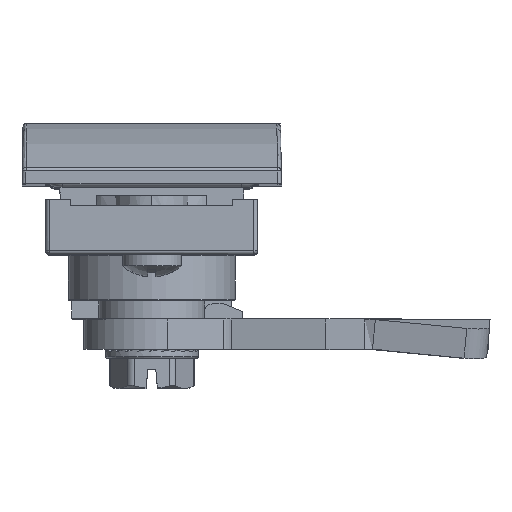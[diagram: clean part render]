
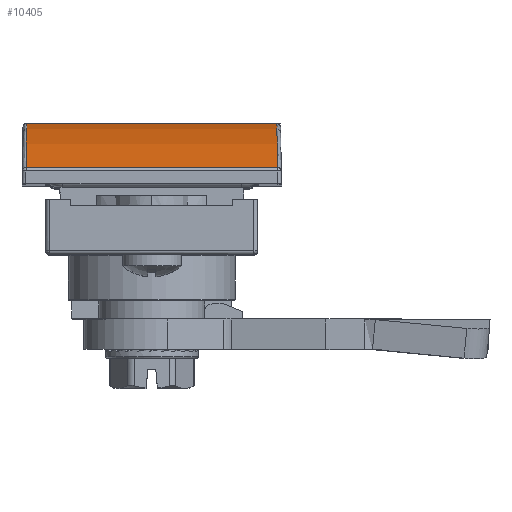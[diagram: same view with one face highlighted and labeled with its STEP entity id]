
A CAD part, top view. The second image highlights one B-rep face of the part: STEP entity #10405.
In plain terms, the highlighted cylindrical face has radius 65.001 mm (diameter 130.002 mm), a partial arc.
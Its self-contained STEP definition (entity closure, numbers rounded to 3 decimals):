
#2151 = ORIENTED_EDGE ( 'NONE', *, *, #16635, .T. ) ;
#2916 = VERTEX_POINT ( 'NONE', #7950 ) ;
#3477 =( BOUNDED_CURVE ( )  B_SPLINE_CURVE ( 3, ( #7183, #7042, #6995, #6992 ),
 .UNSPECIFIED., .F., .F. ) 
 B_SPLINE_CURVE_WITH_KNOTS ( ( 4, 4 ),
 ( 0.02, 0.428 ),
 .UNSPECIFIED. ) 
 CURVE ( )  GEOMETRIC_REPRESENTATION_ITEM ( )  RATIONAL_B_SPLINE_CURVE ( ( 1., 0.986, 0.986, 1. ) ) 
 REPRESENTATION_ITEM ( '' )  );
#3693 = VERTEX_POINT ( 'NONE', #7354 ) ;
#4225 = VECTOR ( 'NONE', #16352, 1000. ) ;
#4758 =( BOUNDED_CURVE ( )  B_SPLINE_CURVE ( 3, ( #16424, #16440, #16345, #16301 ),
 .UNSPECIFIED., .F., .F. ) 
 B_SPLINE_CURVE_WITH_KNOTS ( ( 4, 4 ),
 ( 2.714, 3.122 ),
 .UNSPECIFIED. ) 
 CURVE ( )  GEOMETRIC_REPRESENTATION_ITEM ( )  RATIONAL_B_SPLINE_CURVE ( ( 1., 0.986, 0.986, 1. ) ) 
 REPRESENTATION_ITEM ( '' )  );
#4860 = VERTEX_POINT ( 'NONE', #10814 ) ;
#4958 = LINE ( 'NONE', #16406, #4225 ) ;
#5715 = VECTOR ( 'NONE', #7458, 1000. ) ;
#6992 = CARTESIAN_POINT ( 'NONE',  ( -16.61, 2.134, 174.708 ) ) ;
#6995 = CARTESIAN_POINT ( 'NONE',  ( -16.546, 5.827, 166.615 ) ) ;
#7016 = CARTESIAN_POINT ( 'NONE',  ( -17., -57.001, 147.723 ) ) ;
#7042 = CARTESIAN_POINT ( 'NONE',  ( -16.512, 7.805, 157.943 ) ) ;
#7183 = CARTESIAN_POINT ( 'NONE',  ( -16.509, 7.986, 149.05 ) ) ;
#7187 = DIRECTION ( 'NONE',  ( 1., 0., 0. ) ) ;
#7354 = CARTESIAN_POINT ( 'NONE',  ( -16.5, 7.986, 149.05 ) ) ;
#7458 = DIRECTION ( 'NONE',  ( -1., 0., 0. ) ) ;
#7513 = LINE ( 'NONE', #7586, #5715 ) ;
#7586 = CARTESIAN_POINT ( 'NONE',  ( -17., 7.986, 149.05 ) ) ;
#7950 = CARTESIAN_POINT ( 'NONE',  ( -16.61, 2.134, 174.708 ) ) ;
#8643 = CARTESIAN_POINT ( 'NONE',  ( -16.509, 7.986, 149.05 ) ) ;
#9167 = ORIENTED_EDGE ( 'NONE', *, *, #17654, .T. ) ;
#9279 = VERTEX_POINT ( 'NONE', #17382 ) ;
#9587 = VECTOR ( 'NONE', #18895, 1000. ) ;
#9752 = ORIENTED_EDGE ( 'NONE', *, *, #16864, .T. ) ;
#10075 = ORIENTED_EDGE ( 'NONE', *, *, #17003, .T. ) ;
#10293 = LINE ( 'NONE', #19014, #9587 ) ;
#10405 = ADVANCED_FACE ( 'NONE', ( #17883 ), #15997, .T. ) ;
#10814 = CARTESIAN_POINT ( 'NONE',  ( 16.509, 7.987, 149.008 ) ) ;
#11999 = EDGE_LOOP ( 'NONE', ( #12150, #9167, #2151, #9752, #10075, #15343 ) ) ;
#12150 = ORIENTED_EDGE ( 'NONE', *, *, #17604, .T. ) ;
#12446 = AXIS2_PLACEMENT_3D ( 'NONE', #7016, #7187, #18547 ) ;
#12834 = CARTESIAN_POINT ( 'NONE',  ( -16.5, 7.986, 149.05 ) ) ;
#12840 = CARTESIAN_POINT ( 'NONE',  ( -16.5, 7.987, 149.036 ) ) ;
#12901 = CARTESIAN_POINT ( 'NONE',  ( -16.5, 7.987, 149.008 ) ) ;
#12904 = VERTEX_POINT ( 'NONE', #13570 ) ;
#12908 = CARTESIAN_POINT ( 'NONE',  ( -16.5, 7.987, 149.022 ) ) ;
#13570 = CARTESIAN_POINT ( 'NONE',  ( 16.61, 2.134, 174.708 ) ) ;
#15343 = ORIENTED_EDGE ( 'NONE', *, *, #17161, .T. ) ;
#15997 = CYLINDRICAL_SURFACE ( 'NONE', #12446, 65.001 ) ;
#16301 = CARTESIAN_POINT ( 'NONE',  ( 16.509, 7.987, 149.008 ) ) ;
#16345 = CARTESIAN_POINT ( 'NONE',  ( 16.512, 7.811, 157.915 ) ) ;
#16352 = DIRECTION ( 'NONE',  ( -1., 0., 0. ) ) ;
#16406 = CARTESIAN_POINT ( 'NONE',  ( -17., 7.987, 149.008 ) ) ;
#16424 = CARTESIAN_POINT ( 'NONE',  ( 16.61, 2.134, 174.708 ) ) ;
#16440 = CARTESIAN_POINT ( 'NONE',  ( 16.546, 5.833, 166.602 ) ) ;
#16635 = EDGE_CURVE ( 'NONE', #2916, #12904, #10293, .T. ) ;
#16864 = EDGE_CURVE ( 'NONE', #12904, #4860, #4758, .T. ) ;
#17003 = EDGE_CURVE ( 'NONE', #4860, #9279, #4958, .T. ) ;
#17161 = EDGE_CURVE ( 'NONE', #9279, #3693, #17761, .T. ) ;
#17382 = CARTESIAN_POINT ( 'NONE',  ( -16.5, 7.987, 149.008 ) ) ;
#17604 = EDGE_CURVE ( 'NONE', #3693, #18450, #7513, .T. ) ;
#17654 = EDGE_CURVE ( 'NONE', #18450, #2916, #3477, .T. ) ;
#17761 =( BOUNDED_CURVE ( )  B_SPLINE_CURVE ( 3, ( #12901, #12908, #12840, #12834 ),
 .UNSPECIFIED., .F., .F. ) 
 B_SPLINE_CURVE_WITH_KNOTS ( ( 4, 4 ),
 ( 0.02, 0.02 ),
 .UNSPECIFIED. ) 
 CURVE ( )  GEOMETRIC_REPRESENTATION_ITEM ( )  RATIONAL_B_SPLINE_CURVE ( ( 1., 1., 1., 1. ) ) 
 REPRESENTATION_ITEM ( '' )  );
#17883 = FACE_OUTER_BOUND ( 'NONE', #11999, .T. ) ;
#18450 = VERTEX_POINT ( 'NONE', #8643 ) ;
#18547 = DIRECTION ( 'NONE',  ( 0., 0., -1. ) ) ;
#18895 = DIRECTION ( 'NONE',  ( 1., 0., 0. ) ) ;
#19014 = CARTESIAN_POINT ( 'NONE',  ( -17., 2.134, 174.708 ) ) ;
